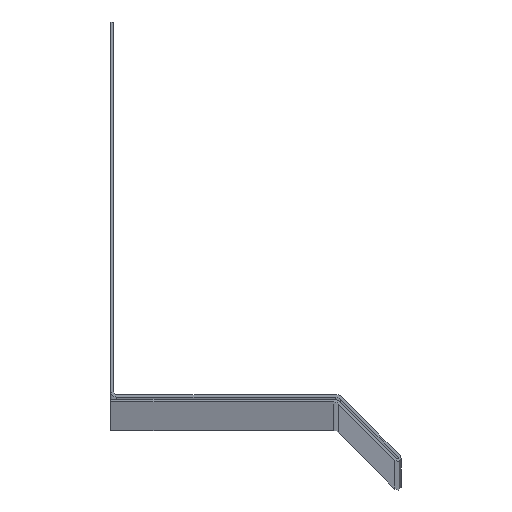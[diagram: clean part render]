
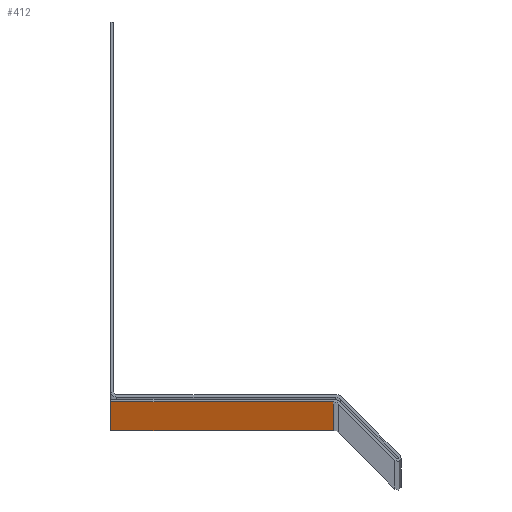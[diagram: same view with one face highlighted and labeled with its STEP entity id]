
A CAD part, top view. The second image highlights one B-rep face of the part: STEP entity #412.
In plain terms, the highlighted planar face has unit normal (0, -1, 0).
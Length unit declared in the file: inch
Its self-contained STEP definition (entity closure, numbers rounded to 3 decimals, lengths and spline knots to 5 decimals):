
#19=PLANE('',#462);
#36=FACE_OUTER_BOUND('',#58,.T.);
#58=EDGE_LOOP('',(#305,#306,#307,#308));
#88=LINE('',#654,#132);
#89=LINE('',#657,#133);
#90=LINE('',#659,#134);
#91=LINE('',#660,#135);
#132=VECTOR('',#530,0.3937);
#133=VECTOR('',#533,0.3937);
#134=VECTOR('',#534,0.3937);
#135=VECTOR('',#535,0.3937);
#191=VERTEX_POINT('',#650);
#192=VERTEX_POINT('',#652);
#193=VERTEX_POINT('',#656);
#194=VERTEX_POINT('',#658);
#238=EDGE_CURVE('',#191,#192,#88,.T.);
#239=EDGE_CURVE('',#191,#193,#89,.T.);
#240=EDGE_CURVE('',#194,#192,#90,.T.);
#241=EDGE_CURVE('',#193,#194,#91,.T.);
#305=ORIENTED_EDGE('',*,*,#239,.F.);
#306=ORIENTED_EDGE('',*,*,#238,.T.);
#307=ORIENTED_EDGE('',*,*,#240,.F.);
#308=ORIENTED_EDGE('',*,*,#241,.F.);
#412=ADVANCED_FACE('',(#36),#19,.T.);
#462=AXIS2_PLACEMENT_3D('',#655,#531,#532);
#530=DIRECTION('',(0.,0.,-1.));
#531=DIRECTION('center_axis',(0.,-1.,0.));
#532=DIRECTION('ref_axis',(-1.,0.,0.));
#533=DIRECTION('',(1.,0.,0.));
#534=DIRECTION('',(-1.,0.,0.));
#535=DIRECTION('',(0.,0.,-1.));
#650=CARTESIAN_POINT('',(-1.07728,-1.24776,0.));
#652=CARTESIAN_POINT('',(-1.07728,-1.24776,-120.));
#654=CARTESIAN_POINT('',(-1.07728,-1.24776,0.));
#655=CARTESIAN_POINT('Origin',(0.55314,-1.24776,0.));
#656=CARTESIAN_POINT('',(0.55314,-1.24776,0.));
#657=CARTESIAN_POINT('',(-1.07728,-1.24776,0.));
#658=CARTESIAN_POINT('',(0.55314,-1.24776,-120.));
#659=CARTESIAN_POINT('',(-1.07728,-1.24776,-120.));
#660=CARTESIAN_POINT('',(0.55314,-1.24776,0.));
